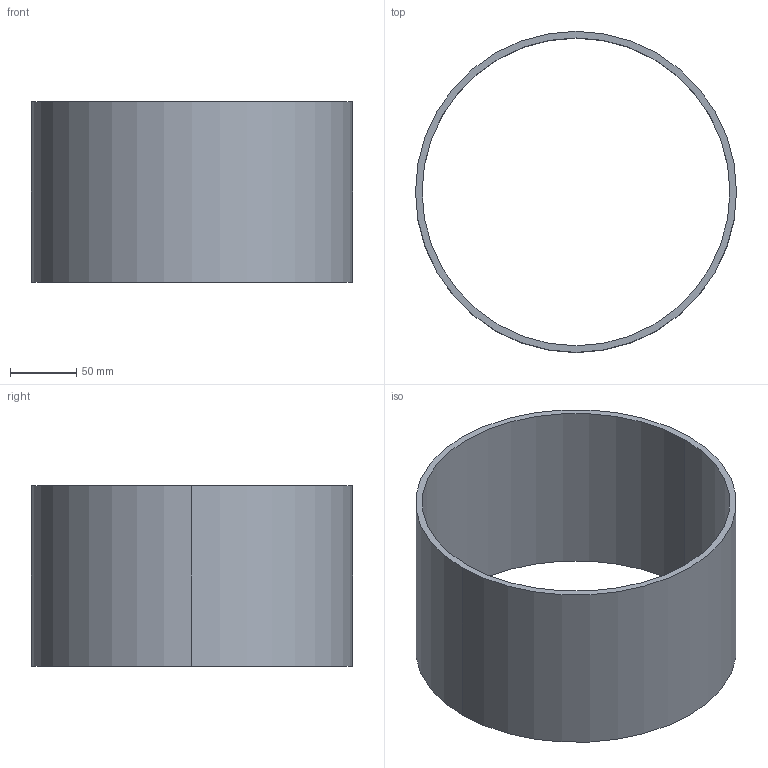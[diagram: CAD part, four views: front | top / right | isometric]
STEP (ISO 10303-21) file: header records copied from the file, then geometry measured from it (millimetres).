
FILE_DESCRIPTION(('CATIA V5 STEP Exchange'),'2;1');
FILE_NAME('C:\_Andres\UNIVERSIDAD\IQS\ASIGNATURAS\DAO\EXF\EXF-15161c\1original\Ripoll_Piera_Ej07-tabla_v21.stp','2016-03-04T21:16:35+00:00',('none'),('none'),'CATIA Version 5 Release 20 SP 1 (IN-10)','CATIA V5 STEP AP203','none');
FILE_SCHEMA(('CONFIG_CONTROL_DESIGN'));
Length unit declared in the file: millimetre
Products named in the file (1): Ripoll_Piera_Ej07-tabla_v21
Bounding box: 242 x 242 x 136 mm (x, y, z)
Volume: 506299.1 mm3; surface area: 209965.2 mm2
Topology: 1 solids, 1 shells, 6 faces, 13 edges, 10 vertices
Faces by surface type: cylinder 4, plane 2
Entity records: 208 total; most frequent: CARTESIAN_POINT 29, ORIENTED_EDGE 24, DIRECTION 23, AXIS2_PLACEMENT_3D 14, EDGE_CURVE 12, CIRCLE 8, EDGE_LOOP 8, VERTEX_POINT 8
